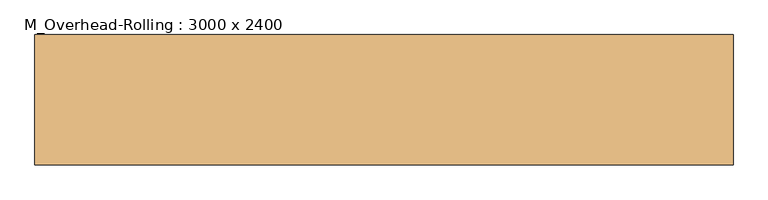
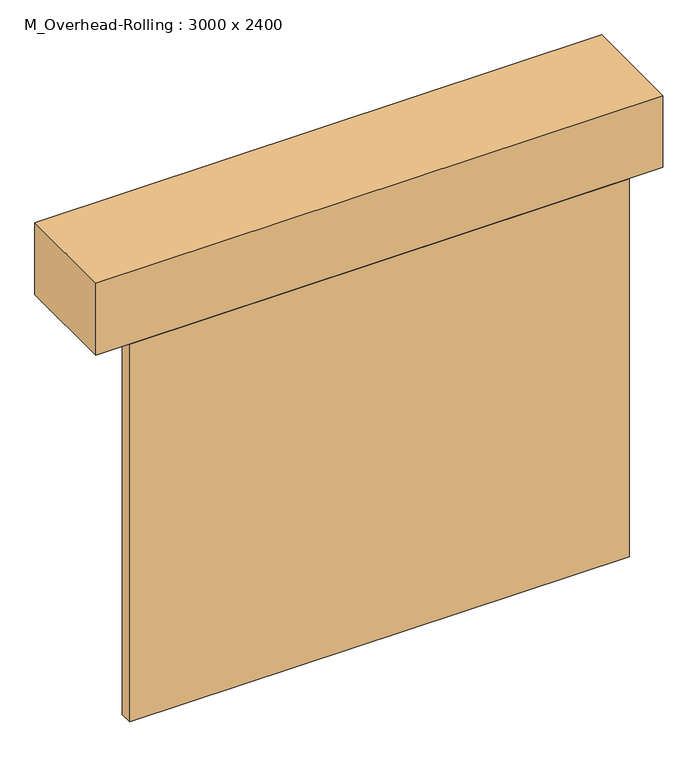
"""IFC4 building model written with IfcOpenShell, lengths in millimetres: door geometry, M_Overhead-Rolling : 3000 x 2400."""

from ifc_helpers import new_model, si_unit, frame, origin, origin_with_axes, place, context, project, spatial, polyline, outline, extrude, source, transform, mapped, element, save


def m_overhead_rolling_3000_x_2400_129daa51(model_context):
    return source(origin(), model_context, "Body", "SweptSolid", [
        extrude(outline(polyline([(1500.0, 71.0), (-1500.0, 71.0), (-1500.0, 147.0), (1500.0, 147.0), (1500.0, 71.0)])), origin_with_axes(), (0.0, 0.0, 1.0), 2400.0),
        extrude(outline(polyline([(1703.2, 705.8), (1703.2, 71.0), (-1703.2, 71.0), (-1703.2, 705.8), (1703.2, 705.8)])), frame((0.0, 0.0, 2400.0), z_axis=(0.0, 0.0, 1.0), x_axis=(1.0, 0.0, 0.0)), (0.0, 0.0, 1.0), 457.2),
    ])


if __name__ == "__main__":
    model = new_model("IFC4")
    model_context = context("Model", 3, world=origin())
    ifc_project = project(units=[si_unit("LENGTHUNIT", "METRE", prefix="MILLI")], contexts=[model_context])
    site = spatial("IfcSite", under=ifc_project)
    building = spatial("IfcBuilding", under=site)
    placement = place(None, origin())
    m_overhead_rolling_3000_x_2400_shape = m_overhead_rolling_3000_x_2400_129daa51(model_context)
    element("IfcDoor", 1, ObjectType="M_Overhead-Rolling : 3000 x 2400", at=placement, inside=building, context=model_context, shape_type="MappedRepresentation", body=[
        mapped(m_overhead_rolling_3000_x_2400_shape, transform((0.0, 0.0, 0.0), x_axis=(1.0, 0.0, 0.0), y_axis=(0.0, 1.0, 0.0), z_axis=(0.0, 0.0, 1.0))),
    ])
    save(model, "model.ifc")
